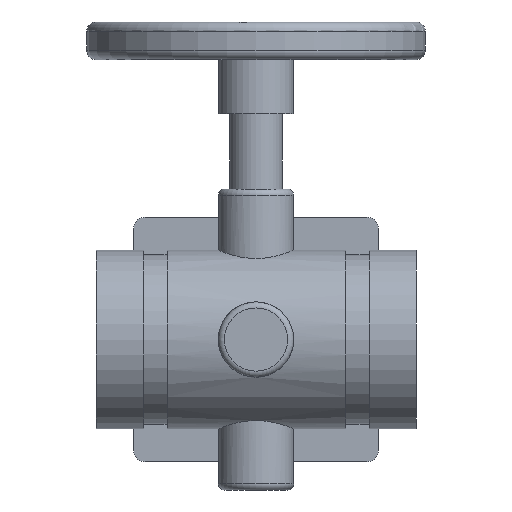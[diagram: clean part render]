
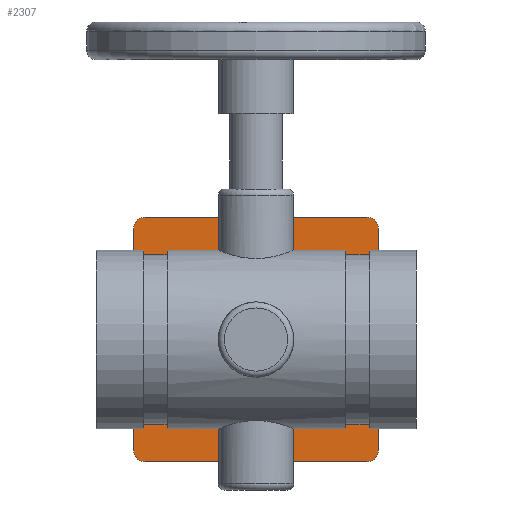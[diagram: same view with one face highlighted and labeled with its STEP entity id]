
A CAD part, front view. The second image highlights one B-rep face of the part: STEP entity #2307.
In plain terms, the highlighted planar face has unit normal (0, -1, 0).
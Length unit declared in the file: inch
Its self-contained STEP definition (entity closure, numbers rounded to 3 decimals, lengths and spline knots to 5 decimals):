
#101=FACE_BOUND('',#495,.T.);
#194=CIRCLE('',#2531,0.15);
#195=CIRCLE('',#2533,0.15);
#196=CIRCLE('',#2534,0.15);
#197=CIRCLE('',#2535,0.15);
#359=FACE_OUTER_BOUND('',#494,.T.);
#494=EDGE_LOOP('',(#1916,#1917,#1918,#1919,#1920,#1921,#1922,#1923));
#495=EDGE_LOOP('',(#1924,#1925,#1926,#1927));
#669=LINE('',#4337,#848);
#670=LINE('',#4341,#849);
#671=LINE('',#4345,#850);
#672=LINE('',#4348,#851);
#673=LINE('',#4351,#852);
#674=LINE('',#4353,#853);
#675=LINE('',#4355,#854);
#676=LINE('',#4356,#855);
#848=VECTOR('',#3104,0.3937);
#849=VECTOR('',#3107,0.3937);
#850=VECTOR('',#3110,0.3937);
#851=VECTOR('',#3113,0.3937);
#852=VECTOR('',#3114,0.3937);
#853=VECTOR('',#3115,0.3937);
#854=VECTOR('',#3116,0.3937);
#855=VECTOR('',#3117,0.3937);
#1060=VERTEX_POINT('',#4330);
#1061=VERTEX_POINT('',#4332);
#1062=VERTEX_POINT('',#4336);
#1063=VERTEX_POINT('',#4338);
#1064=VERTEX_POINT('',#4340);
#1065=VERTEX_POINT('',#4342);
#1066=VERTEX_POINT('',#4344);
#1067=VERTEX_POINT('',#4346);
#1068=VERTEX_POINT('',#4349);
#1069=VERTEX_POINT('',#4350);
#1070=VERTEX_POINT('',#4352);
#1071=VERTEX_POINT('',#4354);
#1359=EDGE_CURVE('',#1060,#1061,#194,.T.);
#1361=EDGE_CURVE('',#1060,#1062,#669,.T.);
#1362=EDGE_CURVE('',#1063,#1062,#195,.T.);
#1363=EDGE_CURVE('',#1063,#1064,#670,.T.);
#1364=EDGE_CURVE('',#1065,#1064,#196,.T.);
#1365=EDGE_CURVE('',#1065,#1066,#671,.T.);
#1366=EDGE_CURVE('',#1067,#1066,#197,.T.);
#1367=EDGE_CURVE('',#1067,#1061,#672,.T.);
#1368=EDGE_CURVE('',#1068,#1069,#673,.T.);
#1369=EDGE_CURVE('',#1069,#1070,#674,.T.);
#1370=EDGE_CURVE('',#1070,#1071,#675,.T.);
#1371=EDGE_CURVE('',#1071,#1068,#676,.T.);
#1916=ORIENTED_EDGE('',*,*,#1359,.F.);
#1917=ORIENTED_EDGE('',*,*,#1361,.T.);
#1918=ORIENTED_EDGE('',*,*,#1362,.F.);
#1919=ORIENTED_EDGE('',*,*,#1363,.T.);
#1920=ORIENTED_EDGE('',*,*,#1364,.F.);
#1921=ORIENTED_EDGE('',*,*,#1365,.T.);
#1922=ORIENTED_EDGE('',*,*,#1366,.F.);
#1923=ORIENTED_EDGE('',*,*,#1367,.T.);
#1924=ORIENTED_EDGE('',*,*,#1368,.T.);
#1925=ORIENTED_EDGE('',*,*,#1369,.T.);
#1926=ORIENTED_EDGE('',*,*,#1370,.T.);
#1927=ORIENTED_EDGE('',*,*,#1371,.T.);
#2070=PLANE('',#2532);
#2307=ADVANCED_FACE('',(#359,#101),#2070,.T.);
#2531=AXIS2_PLACEMENT_3D('',#4333,#3099,#3100);
#2532=AXIS2_PLACEMENT_3D('',#4335,#3102,#3103);
#2533=AXIS2_PLACEMENT_3D('',#4339,#3105,#3106);
#2534=AXIS2_PLACEMENT_3D('',#4343,#3108,#3109);
#2535=AXIS2_PLACEMENT_3D('',#4347,#3111,#3112);
#3099=DIRECTION('center_axis',(0.,1.,0.));
#3100=DIRECTION('ref_axis',(0.707,0.,-0.707));
#3102=DIRECTION('center_axis',(0.,-1.,0.));
#3103=DIRECTION('ref_axis',(1.,0.,0.));
#3104=DIRECTION('',(0.,0.,1.));
#3105=DIRECTION('center_axis',(0.,1.,0.));
#3106=DIRECTION('ref_axis',(0.707,0.,0.707));
#3107=DIRECTION('',(-1.,0.,0.));
#3108=DIRECTION('center_axis',(0.,1.,0.));
#3109=DIRECTION('ref_axis',(-0.707,0.,0.707));
#3110=DIRECTION('',(0.,0.,-1.));
#3111=DIRECTION('center_axis',(0.,1.,0.));
#3112=DIRECTION('ref_axis',(-0.707,0.,-0.707));
#3113=DIRECTION('',(1.,0.,0.));
#3114=DIRECTION('',(1.,0.,0.));
#3115=DIRECTION('',(0.,0.,-1.));
#3116=DIRECTION('',(-1.,0.,0.));
#3117=DIRECTION('',(0.,0.,1.));
#4330=CARTESIAN_POINT('',(1.62,3.66,-1.475));
#4332=CARTESIAN_POINT('',(1.47,3.66,-1.625));
#4333=CARTESIAN_POINT('Origin',(1.47,3.66,-1.475));
#4335=CARTESIAN_POINT('Origin',(-0.005,3.66,0.));
#4336=CARTESIAN_POINT('',(1.62,3.66,1.475));
#4337=CARTESIAN_POINT('',(1.62,3.66,-1.625));
#4338=CARTESIAN_POINT('',(1.47,3.66,1.625));
#4339=CARTESIAN_POINT('Origin',(1.47,3.66,1.475));
#4340=CARTESIAN_POINT('',(-1.48,3.66,1.625));
#4341=CARTESIAN_POINT('',(1.62,3.66,1.625));
#4342=CARTESIAN_POINT('',(-1.63,3.66,1.475));
#4343=CARTESIAN_POINT('Origin',(-1.48,3.66,1.475));
#4344=CARTESIAN_POINT('',(-1.63,3.66,-1.475));
#4345=CARTESIAN_POINT('',(-1.63,3.66,1.625));
#4346=CARTESIAN_POINT('',(-1.48,3.66,-1.625));
#4347=CARTESIAN_POINT('Origin',(-1.48,3.66,-1.475));
#4348=CARTESIAN_POINT('',(-1.63,3.66,-1.625));
#4349=CARTESIAN_POINT('',(-1.005,3.66,1.));
#4350=CARTESIAN_POINT('',(0.995,3.66,1.));
#4351=CARTESIAN_POINT('',(0.495,3.66,1.));
#4352=CARTESIAN_POINT('',(0.995,3.66,-1.));
#4353=CARTESIAN_POINT('',(0.995,3.66,-0.5));
#4354=CARTESIAN_POINT('',(-1.005,3.66,-1.));
#4355=CARTESIAN_POINT('',(-0.505,3.66,-1.));
#4356=CARTESIAN_POINT('',(-1.005,3.66,0.5));
